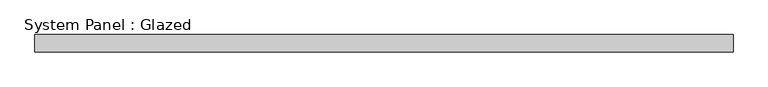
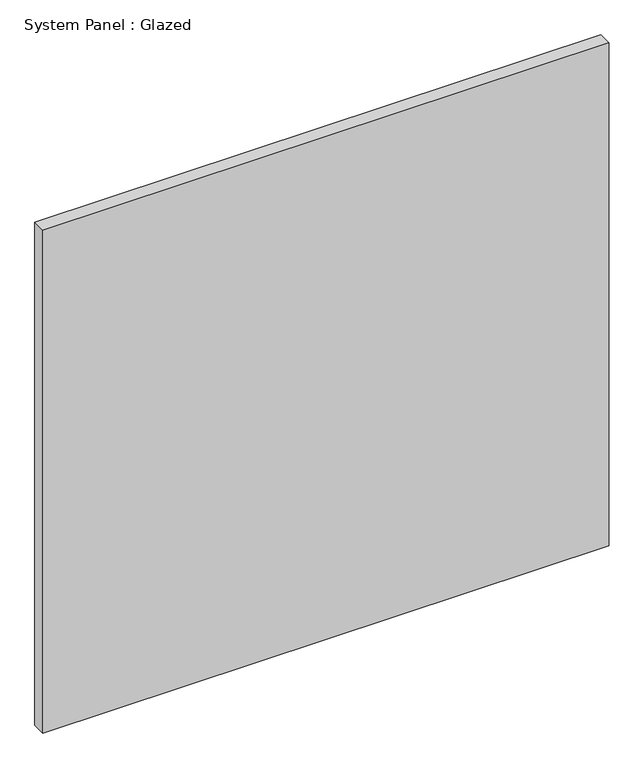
"""IFC4 building model written with IfcOpenShell, lengths in millimetres: plate geometry, System Panel : Glazed."""

from ifc_helpers import new_model, si_unit, origin, origin_with_axes, place, context, project, spatial, polyline, outline, extrude, source, transform, mapped, element, save


def system_panel_glazed_bb9652dc(model_context):
    return source(origin(), model_context, "Body", "SweptSolid", [
        extrude(outline(polyline([(507.5, -12.5), (-507.5, -12.5), (-507.5, 12.5), (507.5, 12.5), (507.5, -12.5)])), origin_with_axes(), (0.0, 0.0, 1.0), 952.5),
    ])


if __name__ == "__main__":
    model = new_model("IFC4")
    model_context = context("Model", 3, world=origin())
    ifc_project = project(units=[si_unit("LENGTHUNIT", "METRE", prefix="MILLI")], contexts=[model_context])
    site = spatial("IfcSite", under=ifc_project)
    building = spatial("IfcBuilding", under=site)
    placement = place(None, origin())
    system_panel_glazed_shape = system_panel_glazed_bb9652dc(model_context)
    element("IfcPlate", 1, ObjectType="System Panel : Glazed", at=placement, inside=building, context=model_context, shape_type="MappedRepresentation", body=[
        mapped(system_panel_glazed_shape, transform((0.0, 0.0, 0.0), x_axis=(1.0, 0.0, 0.0), y_axis=(0.0, 1.0, 0.0), z_axis=(0.0, 0.0, 1.0))),
    ])
    save(model, "model.ifc")
